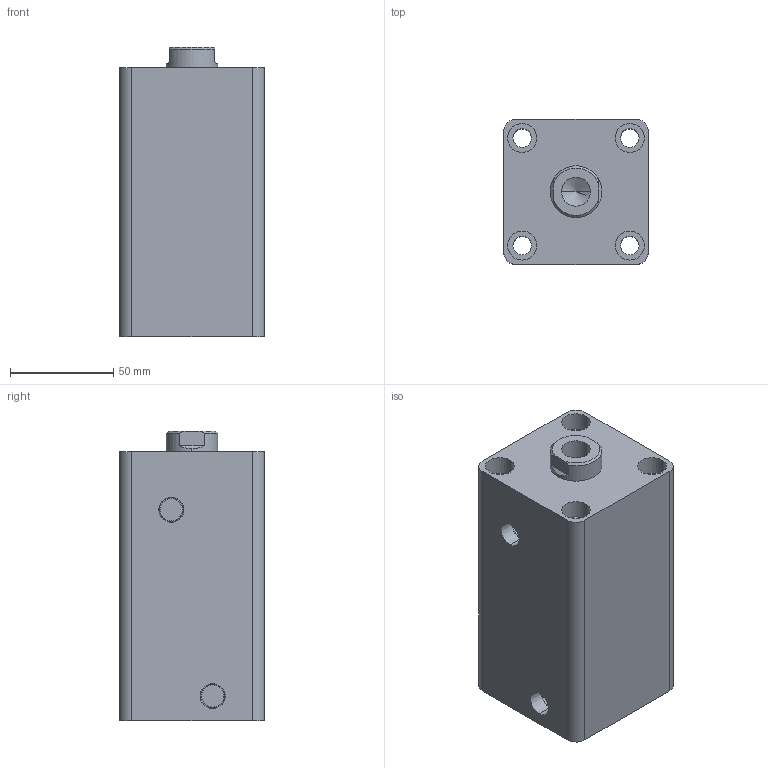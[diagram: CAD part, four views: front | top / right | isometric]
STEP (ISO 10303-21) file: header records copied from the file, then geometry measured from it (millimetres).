
FILE_DESCRIPTION (( 'STEP AP203' ), '1' );
FILE_NAME ('HTB-SD40-75N.STEP', '2019-10-07T06:55:24', ( '微软用户' ), ( '微软中国' ), 'SwSTEP 2.0', 'SolidWorks 2012', '' );
FILE_SCHEMA (( 'CONFIG_CONTROL_DESIGN' ));
Length unit declared in the file: millimetre
Products named in the file (3): HTB-SD40-75掛极; HTB-SD40-75N活塞杆; HTB-SD40-75N
Assembly tree (2 placements, depth 2):
  HTB-SD40-75N
    HTB-SD40-75掛极
    HTB-SD40-75N活塞杆
Bounding box: 70 x 70 x 140 mm (x, y, z)
Volume: 535424 mm3; surface area: 90505.3 mm2
Topology: 2 solids, 2 shells, 81 faces, 180 edges, 117 vertices
Faces by surface type: cylinder 42, plane 27, cone 8, torus 4
Entity records: 2603 total; most frequent: DIRECTION 444, CARTESIAN_POINT 409, ORIENTED_EDGE 356, AXIS2_PLACEMENT_3D 188, EDGE_CURVE 178, VERTEX_POINT 117, EDGE_LOOP 105, CIRCLE 102
